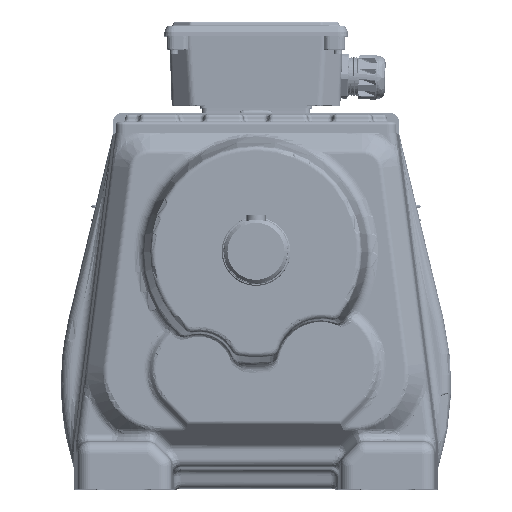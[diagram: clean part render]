
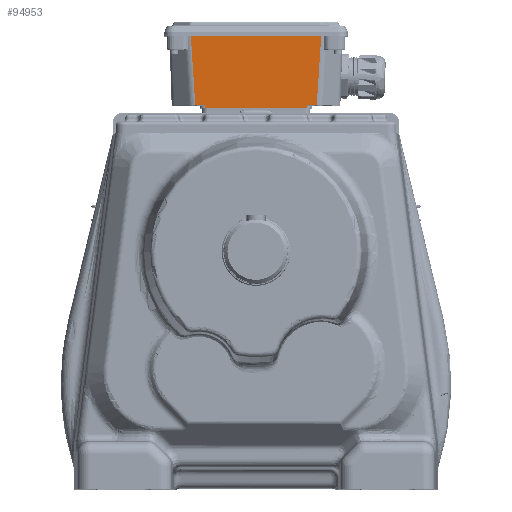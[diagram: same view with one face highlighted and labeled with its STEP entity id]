
A CAD part, top view. The second image highlights one B-rep face of the part: STEP entity #94953.
In plain terms, the highlighted planar face has unit normal (0, -0.035, 0.999) as drawn and (-0.999, -0.035, 0) by its records, which use the part's own axes.
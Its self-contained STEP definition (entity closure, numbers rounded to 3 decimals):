
#731 = CARTESIAN_POINT ( 'NONE',  ( 183.178, 160.483, -48.125 ) ) ;
#12359 = VECTOR ( 'NONE', #330531, 1000. ) ;
#17292 = EDGE_LOOP ( 'NONE', ( #292444, #133728, #137453, #322879, #358246, #324408, #108944, #107491 ) ) ;
#21889 = VERTEX_POINT ( 'NONE', #375720 ) ;
#24045 = EDGE_CURVE ( 'NONE', #184320, #188059, #32800, .T. ) ;
#26410 = VERTEX_POINT ( 'NONE', #731 ) ;
#32800 = LINE ( 'NONE', #357669, #246623 ) ;
#39600 = LINE ( 'NONE', #254557, #281000 ) ;
#52118 = FACE_OUTER_BOUND ( 'NONE', #17292, .T. ) ;
#60856 = DIRECTION ( 'NONE',  ( -0.035, 0.999, 0.035 ) ) ;
#68686 = DIRECTION ( 'NONE',  ( 0., 0., -1. ) ) ;
#69752 = CARTESIAN_POINT ( 'NONE',  ( 183.178, 160.483, 48.125 ) ) ;
#71218 = VECTOR ( 'NONE', #109775, 1000. ) ;
#73435 = EDGE_CURVE ( 'NONE', #133597, #26410, #427831, .T. ) ;
#76381 = EDGE_CURVE ( 'NONE', #240531, #336015, #304703, .T. ) ;
#76922 = CARTESIAN_POINT ( 'NONE',  ( 182.234, 187.521, -49.069 ) ) ;
#91286 = EDGE_CURVE ( 'NONE', #297863, #240531, #246355, .T. ) ;
#94953 = ADVANCED_FACE ( 'NONE', ( #52118 ), #196973, .T. ) ;
#105362 = VECTOR ( 'NONE', #68686, 1000. ) ;
#107491 = ORIENTED_EDGE ( 'NONE', *, *, #73435, .F. ) ;
#108944 = ORIENTED_EDGE ( 'NONE', *, *, #251227, .T. ) ;
#109775 = DIRECTION ( 'NONE',  ( -0.035, 0.999, -0.035 ) ) ;
#116997 = CARTESIAN_POINT ( 'NONE',  ( 183.178, 160.483, -64.615 ) ) ;
#121965 = AXIS2_PLACEMENT_3D ( 'NONE', #126861, #124543, #194680 ) ;
#124543 = DIRECTION ( 'NONE',  ( -0.999, -0.035, 0. ) ) ;
#126861 = CARTESIAN_POINT ( 'NONE',  ( 181.1, 220., -64.615 ) ) ;
#133597 = VERTEX_POINT ( 'NONE', #324579 ) ;
#133728 = ORIENTED_EDGE ( 'NONE', *, *, #147156, .T. ) ;
#137453 = ORIENTED_EDGE ( 'NONE', *, *, #24045, .T. ) ;
#140790 = DIRECTION ( 'NONE',  ( -0.035, 0.997, 0.064 ) ) ;
#147156 = EDGE_CURVE ( 'NONE', #21889, #184320, #381180, .T. ) ;
#152043 = LINE ( 'NONE', #116997, #174138 ) ;
#171904 = CARTESIAN_POINT ( 'NONE',  ( 180.89, 226., 61.68 ) ) ;
#174138 = VECTOR ( 'NONE', #259611, 1000. ) ;
#184320 = VERTEX_POINT ( 'NONE', #69752 ) ;
#184447 = DIRECTION ( 'NONE',  ( 0., 0., -1. ) ) ;
#188059 = VERTEX_POINT ( 'NONE', #288352 ) ;
#194680 = DIRECTION ( 'NONE',  ( 0.035, -0.999, 0. ) ) ;
#196973 = PLANE ( 'NONE',  #121965 ) ;
#231342 = CARTESIAN_POINT ( 'NONE',  ( 183.178, 160.483, -57.489 ) ) ;
#240531 = VERTEX_POINT ( 'NONE', #371363 ) ;
#243198 = DIRECTION ( 'NONE',  ( 0., 0., 1. ) ) ;
#246355 = LINE ( 'NONE', #421803, #105362 ) ;
#246623 = VECTOR ( 'NONE', #243198, 1000. ) ;
#251227 = EDGE_CURVE ( 'NONE', #336015, #26410, #152043, .T. ) ;
#254557 = CARTESIAN_POINT ( 'NONE',  ( 183.248, 158.483, -32.307 ) ) ;
#259611 = DIRECTION ( 'NONE',  ( 0., 0., 1. ) ) ;
#281000 = VECTOR ( 'NONE', #184447, 1000. ) ;
#288352 = CARTESIAN_POINT ( 'NONE',  ( 183.178, 160.483, 57.489 ) ) ;
#292444 = ORIENTED_EDGE ( 'NONE', *, *, #401844, .F. ) ;
#297863 = VERTEX_POINT ( 'NONE', #171904 ) ;
#304703 = LINE ( 'NONE', #447415, #12359 ) ;
#318478 = LINE ( 'NONE', #395521, #366583 ) ;
#322879 = ORIENTED_EDGE ( 'NONE', *, *, #426803, .T. ) ;
#324408 = ORIENTED_EDGE ( 'NONE', *, *, #76381, .T. ) ;
#324579 = CARTESIAN_POINT ( 'NONE',  ( 183.248, 158.483, -48.055 ) ) ;
#330531 = DIRECTION ( 'NONE',  ( 0.035, -0.997, 0.064 ) ) ;
#331911 = VECTOR ( 'NONE', #60856, 1000. ) ;
#336015 = VERTEX_POINT ( 'NONE', #231342 ) ;
#348405 = CARTESIAN_POINT ( 'NONE',  ( 183.248, 158.483, 48.055 ) ) ;
#357669 = CARTESIAN_POINT ( 'NONE',  ( 183.178, 160.483, -64.615 ) ) ;
#358246 = ORIENTED_EDGE ( 'NONE', *, *, #91286, .T. ) ;
#366583 = VECTOR ( 'NONE', #140790, 1000. ) ;
#371363 = CARTESIAN_POINT ( 'NONE',  ( 180.89, 226., -61.68 ) ) ;
#375720 = CARTESIAN_POINT ( 'NONE',  ( 183.248, 158.483, 48.055 ) ) ;
#381180 = LINE ( 'NONE', #348405, #331911 ) ;
#395521 = CARTESIAN_POINT ( 'NONE',  ( 183.178, 160.483, 57.489 ) ) ;
#401844 = EDGE_CURVE ( 'NONE', #21889, #133597, #39600, .T. ) ;
#421803 = CARTESIAN_POINT ( 'NONE',  ( 180.89, 226., -64.615 ) ) ;
#426803 = EDGE_CURVE ( 'NONE', #188059, #297863, #318478, .T. ) ;
#427831 = LINE ( 'NONE', #76922, #71218 ) ;
#447415 = CARTESIAN_POINT ( 'NONE',  ( 180.89, 226., -61.68 ) ) ;
